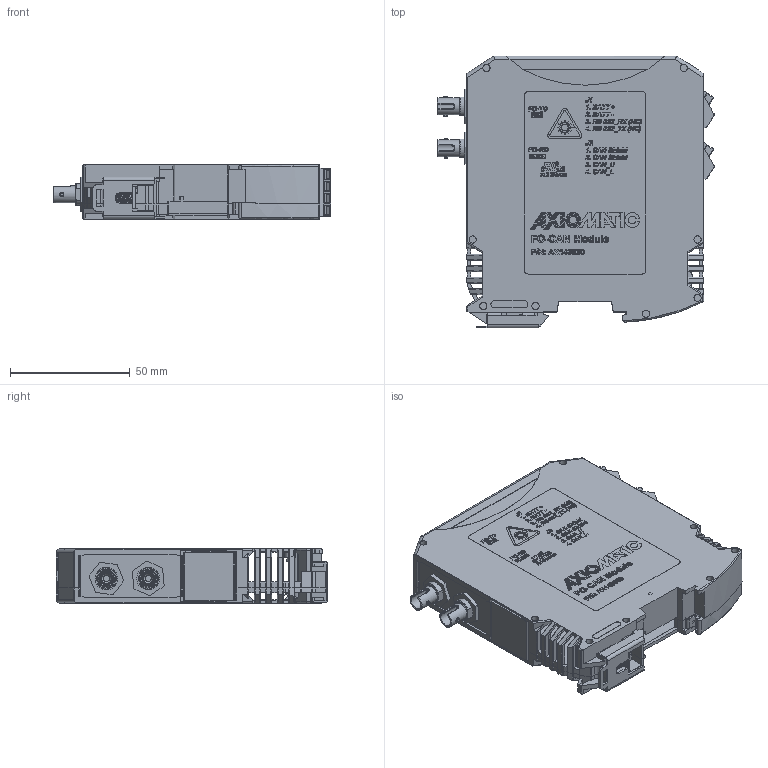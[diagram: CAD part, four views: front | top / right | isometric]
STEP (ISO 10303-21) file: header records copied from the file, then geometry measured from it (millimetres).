
FILE_DESCRIPTION(/* description */ ('625-5334-00 Fiber Optic to CAN Converter'),/* implementation_level */ '2;1');
FILE_NAME(/* name */ 'S:\Projects\FO-CAN, AX143000, Proj_21020\MECHANICAL\rev A\AX143030.stp',/* time_stamp */ '2026-02-17T15:42:53-05:00',/* author */ ('AutoDeskUser'),/* organization */ (''),/* preprocessor_version */ 'ST-DEVELOPER v18.1',/* originating_system */ 'Autodesk Inventor 2021',/* authorisation */ '');
FILE_SCHEMA (('CONFIG_CONTROL_DESIGN'));
Products named in the file (19): FG-AX143030 for STEP; LBM-AX143000-03-R1; LBM-AX143030-01-R1 for STEP; MG-21020-01 for STEP; PHO 1514324; PHO ME MAX B-22.5-KMGY; ME-MAX-22-5-3-U1-KMGY 2201538 spring; ME-MAX-22-5-3-U1-KMGY back; ME-MAX-22-5-3-U1-KMGY 2201538 clip; ME-MAX-22-5-3-U1-KMGY 2201538 front; ME-MAX-22-5-3-U1-KMGY clear cover; PHO 1474716; BROAD HFBR-4411Z; BROAD HFBR-2412TZ; BROAD HFBR-1412TZ; PHO MSTBO 2.5-4-G1R; LBM-SERIAL-01-R2; PHO 2908294; PHO PSPT 2,5/ 4-ST KMGY
Assembly tree (25 placements, depth 4):
  FG-AX143030 for STEP
    LBM-AX143000-03-R1
    LBM-AX143030-01-R1 for STEP
    MG-21020-01 for STEP
      PHO ME MAX B-22.5-KMGY  x2
      PHO 1514324
        PHO ME MAX B-22.5-KMGY  x2
        ME-MAX-22-5-3-U1-KMGY 2201538 spring
        ME-MAX-22-5-3-U1-KMGY back
        ME-MAX-22-5-3-U1-KMGY 2201538 clip
        ME-MAX-22-5-3-U1-KMGY 2201538 front
        ME-MAX-22-5-3-U1-KMGY clear cover
        PHO 1474716
      BROAD HFBR-4411Z  x2
      BROAD HFBR-2412TZ
      BROAD HFBR-1412TZ
      PHO MSTBO 2.5-4-G1R  x2
      LBM-SERIAL-01-R2  x2
      PHO 2908294
    PHO PSPT 2,5/ 4-ST KMGY  x2
Bounding box: 116.01 x 113.65 x 22.85 mm (x, y, z)
Volume: 58346.3 mm3; surface area: 96680.4 mm2
Topology: 23 solids, 23 shells, 7845 faces, 21397 edges, 14047 vertices
Faces by surface type: plane 5685, cylinder 1152, bspline 838, sphere 64, torus 58, cone 48
Full cylindrical faces by diameter (mm): 0.238 x2, 0.46 x8, 1.051 x1, 1.2 x1, 1.316 x1, 1.35 x2, 1.4 x6, 1.5 x36, 1.6 x1, 2.2 x8, 2.5 x2, 2.8 x17, 2.9 x16, 3 x20, 4.5 x3, 5.8 x2, 7.1 x2, 9.525 x2, 10 x2
Entity records: 217812 total; most frequent: CARTESIAN_POINT 59064, ORIENTED_EDGE 34054, DIRECTION 28349, EDGE_CURVE 17027, LINE 13197, VECTOR 13197, VERTEX_POINT 11233, AXIS2_PLACEMENT_3D 7576
